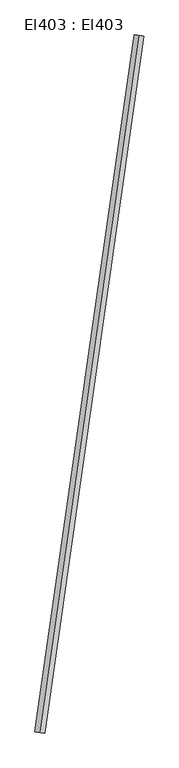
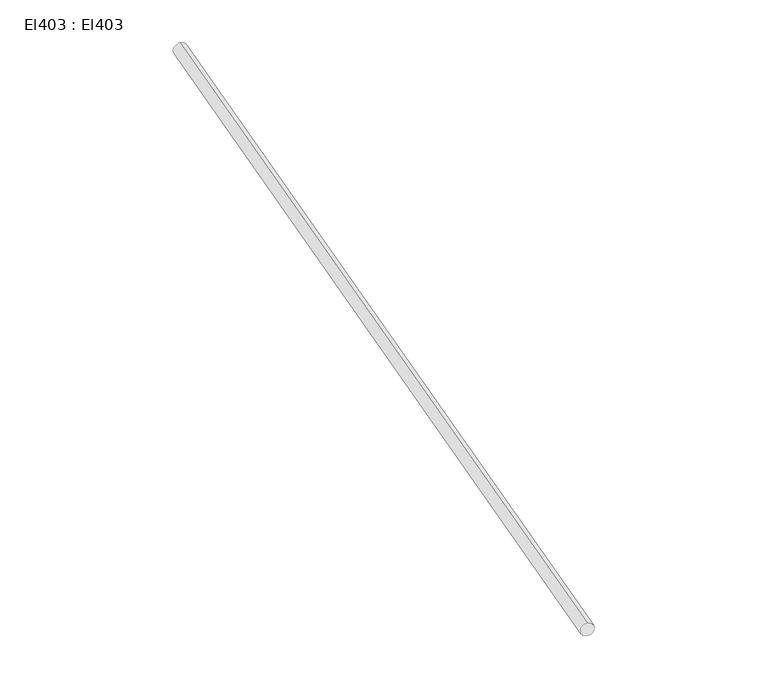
"""IFC4 building model written with IfcOpenShell, lengths in millimetres: cable carrier segment geometry, El403 : El403."""

from ifc_helpers import new_model, si_unit, point, frame, frame_2d, origin, place, context, project, spatial, circle_curve, trimmed, segment, composite_curve, outline, extrude, source, transform, mapped, element, save


def el403_el403_38c1823b(model_context):
    return source(origin(), model_context, "Body", "SweptSolid", [
        extrude(outline(composite_curve([segment(trimmed(circle_curve(frame_2d((0.0, -9.5)), 9.5), [point((0.0, -19.0))], [point((0.0, 0.0))], False, "CARTESIAN"), True, "CONTINUOUS"), segment(trimmed(circle_curve(frame_2d((0.0, -9.5)), 9.5), [point((0.0, 0.0))], [point((0.0, -19.0))], False, "CARTESIAN"), True, "CONTINUOUS")], self_intersect=False)), frame((7653.7399, 26415.054, 2959.5), z_axis=(0.14085503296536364, 0.9900302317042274, 0.0), x_axis=(-0.9900302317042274, 0.14085503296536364, 0.0)), (0.0, 0.0, 1.0), 1357.42),
    ])


if __name__ == "__main__":
    model = new_model("IFC4")
    model_context = context("Model", 3, world=origin())
    ifc_project = project(units=[si_unit("LENGTHUNIT", "METRE", prefix="MILLI")], contexts=[model_context])
    site = spatial("IfcSite", under=ifc_project)
    building = spatial("IfcBuilding", under=site)
    placement = place(None, origin())
    el403_el403_shape = el403_el403_38c1823b(model_context)
    element("IfcCableCarrierSegment", 1, ObjectType="El403 : El403", at=placement, inside=building, context=model_context, shape_type="MappedRepresentation", body=[
        mapped(el403_el403_shape, transform((0.0, 0.0, 0.0), x_axis=(1.0, 0.0, 0.0), y_axis=(0.0, 1.0, 0.0), z_axis=(0.0, 0.0, 1.0))),
    ])
    save(model, "model.ifc")
